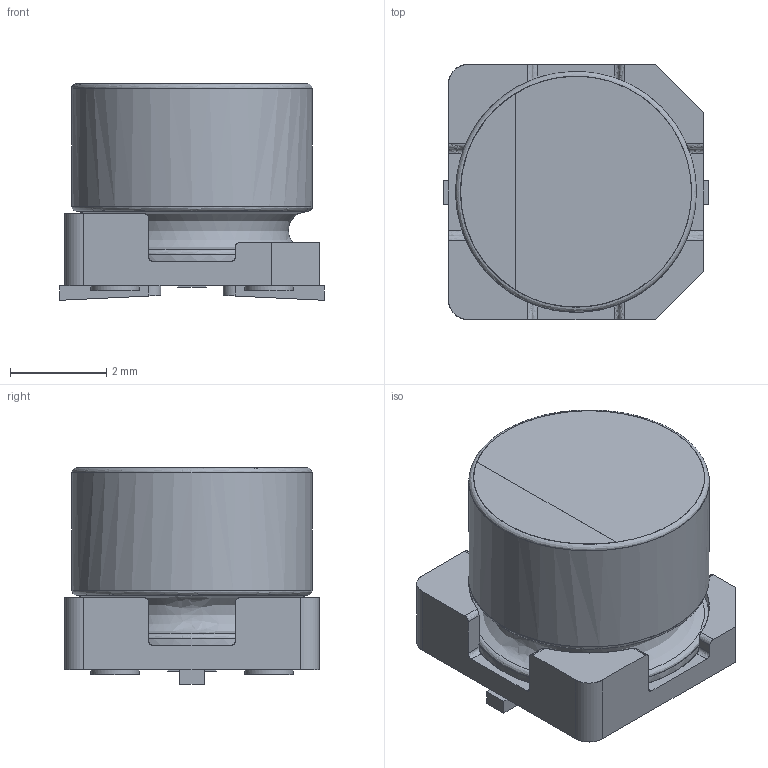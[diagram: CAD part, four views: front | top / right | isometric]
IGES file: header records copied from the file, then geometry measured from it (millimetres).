
Start section: JAMA-IS VERSION  1.0
Bounding box: 5.5 x 5.3 x 4.5 mm (x, y, z)
Surface area: 197.8 mm2 (no closed solid volume)
Topology: 0 solids, 0 shells, 81 faces, 944 edges, 926 vertices
Faces by surface type: bspline 81
